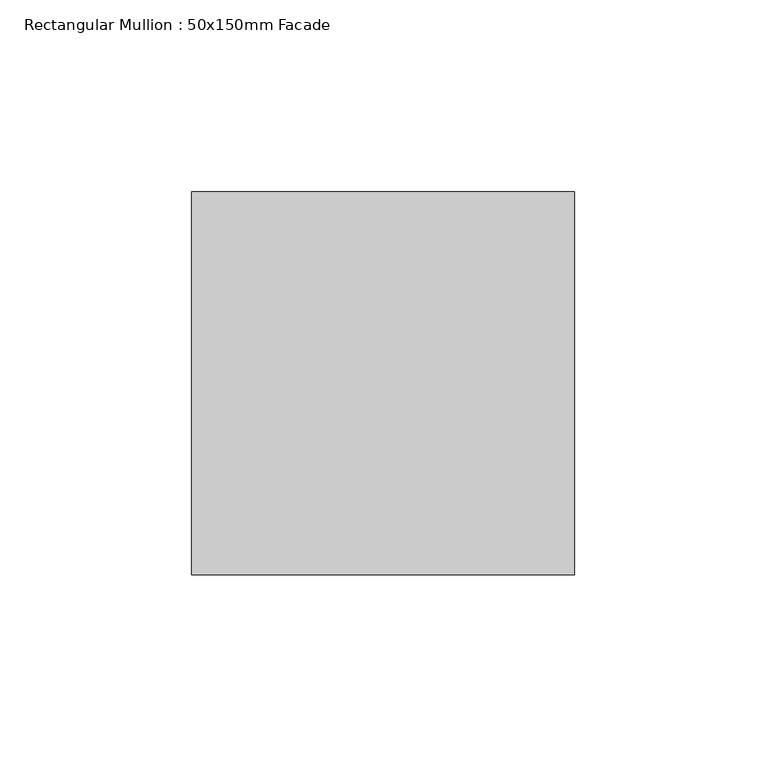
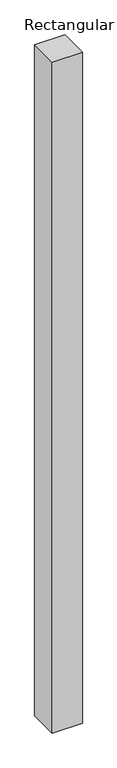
"""IFC4 building model written with IfcOpenShell, lengths in millimetres: member geometry, Rectangular Mullion : 50x150mm Facade."""

from ifc_helpers import new_model, si_unit, frame, origin, place, context, project, spatial, polyline, outline, extrude, source, transform, mapped, element, save


def rectangular_mullion_50x150mm_facade_223d22c9(model_context):
    return source(origin(), model_context, "Body", "SweptSolid", [
        extrude(outline(polyline([(0.0, 50.0), (0.0, -50.0), (-100.0, -50.0), (-100.0, 50.0), (0.0, 50.0)])), frame((0.0, 0.0, -2350.0), z_axis=(0.0, 0.0, 1.0), x_axis=(1.0, 0.0, 0.0)), (0.0, 0.0, 1.0), 2350.0),
    ])


if __name__ == "__main__":
    model = new_model("IFC4")
    model_context = context("Model", 3, world=origin())
    ifc_project = project(units=[si_unit("LENGTHUNIT", "METRE", prefix="MILLI")], contexts=[model_context])
    site = spatial("IfcSite", under=ifc_project)
    building = spatial("IfcBuilding", under=site)
    placement = place(None, origin())
    rectangular_mullion_50x150mm_facade_shape = rectangular_mullion_50x150mm_facade_223d22c9(model_context)
    element("IfcMember", 1, ObjectType="Rectangular Mullion : 50x150mm Facade", at=placement, inside=building, context=model_context, shape_type="MappedRepresentation", body=[
        mapped(rectangular_mullion_50x150mm_facade_shape, transform((0.0, 0.0, 0.0), x_axis=(1.0, 0.0, 0.0), y_axis=(0.0, 1.0, 0.0), z_axis=(0.0, 0.0, 1.0))),
    ])
    save(model, "model.ifc")
